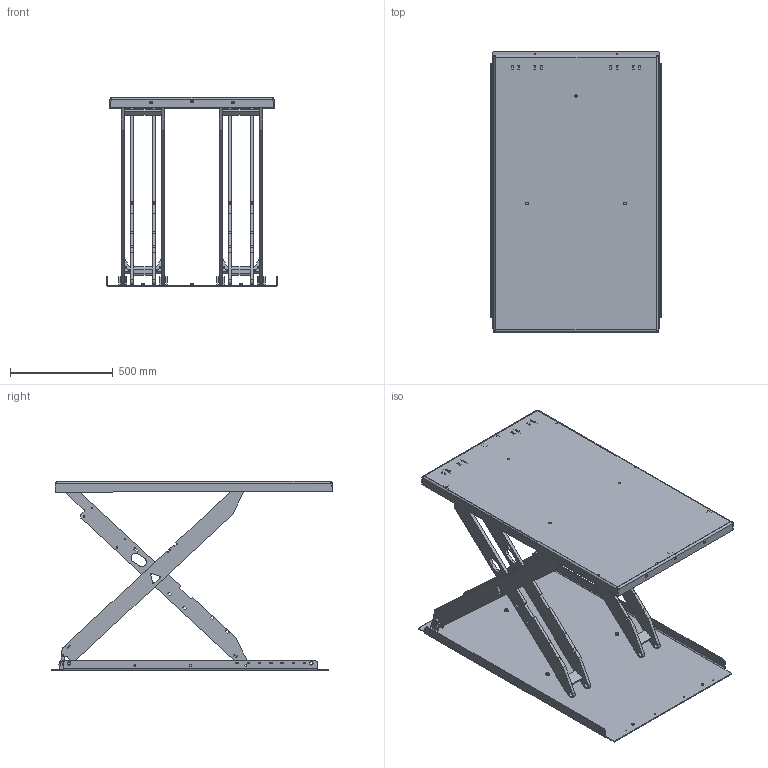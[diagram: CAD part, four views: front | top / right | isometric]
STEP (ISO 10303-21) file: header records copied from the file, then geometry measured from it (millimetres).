
FILE_DESCRIPTION(/* description */ ('TCL 2000 1350x800'),/* implementation_level */ '2;1');
FILE_NAME(/* name */ 'C:\Autodesk_VaultWork\Ritningar\tmp\601377_Raised.stp',/* time_stamp */ '2018-03-01T08:22:46+01:00',/* author */ ('johso'),/* organization */ (''),/* preprocessor_version */ 'ST-DEVELOPER v16.5',/* originating_system */ 'Autodesk Inventor 2017',/* authorisation */ '');
FILE_SCHEMA (('AUTOMOTIVE_DESIGN { 1 0 10303 214 3 1 1 }'));
Length unit declared in the file: millimetre
Products named in the file (19): 601377.tmp; 601295; 601294; 80476; 601292; 602256; 601260; 36532; 601263; 601264; 36533; 36534; 36538-2; 601298; 602124; 45411; ISO 4014 - M6 x 35; 44572; 45087
Assembly tree (48 placements, depth 5):
  601377.tmp
    601295
      601294
      45411  x8
      80476  x3
    601292
      602256
        601260  x2
          36532
          601263
          601264
      36533  x2
        36534
        36538-2
    601298
      602124
      45411  x8
      ISO 4014 - M6 x 35  x6
      44572  x2
      45087  x4
Bounding box: 830 x 1366.44 x 922 mm (x, y, z)
Volume: 24725132 mm3; surface area: 7192589.2 mm2
Topology: 47 solids, 47 shells, 2289 faces, 6421 edges, 4254 vertices
Faces by surface type: cylinder 1303, plane 896, cone 54, bspline 36
Full cylindrical faces by diameter (mm): 5 x8, 5.5 x9, 6 x6, 7 x4, 7.4 x12, 8.376 x3, 8.5 x4, 8.88 x6, 9 x6, 12 x3, 12.5 x6, 13 x8, 15 x16, 16 x4, 26.2 x8
Entity records: 34399 total; most frequent: CARTESIAN_POINT 6605, DIRECTION 5886, ORIENTED_EDGE 5594, EDGE_CURVE 2797, AXIS2_PLACEMENT_3D 2138, VERTEX_POINT 1889, LINE 1610, VECTOR 1610
